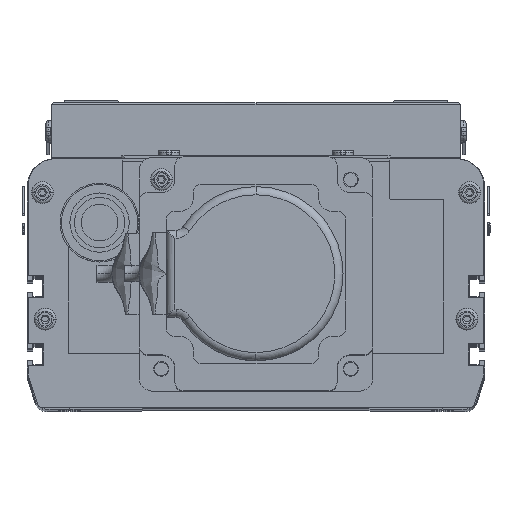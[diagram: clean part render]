
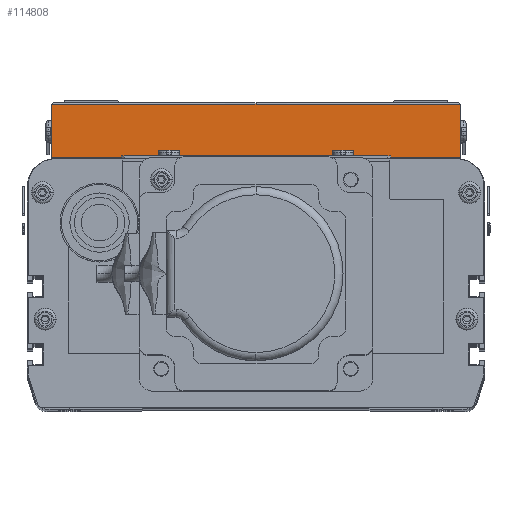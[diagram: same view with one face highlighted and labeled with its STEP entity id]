
A CAD part, top view. The second image highlights one B-rep face of the part: STEP entity #114808.
In plain terms, the highlighted planar face has unit normal (0, 0, 1) as drawn and (1, 0, 0) by its records, which use the part's own axes.
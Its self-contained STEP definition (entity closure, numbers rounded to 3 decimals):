
#38600 = DIRECTION ( 'NONE',  ( 0., -1., 0. ) ) ;
#38601 = VECTOR ( 'NONE', #38600, 1000. ) ;
#38603 = CARTESIAN_POINT ( 'NONE',  ( 220., 20., -150. ) ) ;
#38605 = LINE ( 'NONE', #38603, #38601 ) ;
#38727 = CARTESIAN_POINT ( 'NONE',  ( 220., 0., 0. ) ) ;
#39029 = LINE ( 'NONE', #39134, #39133 ) ;
#39052 = CARTESIAN_POINT ( 'NONE',  ( 220., 0., -150. ) ) ;
#39133 = VECTOR ( 'NONE', #39226, 1000. ) ;
#39134 = CARTESIAN_POINT ( 'NONE',  ( 220., 19.5, 0. ) ) ;
#39157 = CARTESIAN_POINT ( 'NONE',  ( 220., 19.5, -150. ) ) ;
#39226 = DIRECTION ( 'NONE',  ( 0., 0., 1. ) ) ;
#39911 = CARTESIAN_POINT ( 'NONE',  ( 220., 19.5, -75. ) ) ;
#40041 = DIRECTION ( 'NONE',  ( 0., -1., 0. ) ) ;
#40042 = VECTOR ( 'NONE', #40041, 1000. ) ;
#40043 = CARTESIAN_POINT ( 'NONE',  ( 220., 20., 0. ) ) ;
#40044 = LINE ( 'NONE', #40043, #40042 ) ;
#40127 = CARTESIAN_POINT ( 'NONE',  ( 220., 19.5, 0. ) ) ;
#40477 = DIRECTION ( 'NONE',  ( 0., 0., -1. ) ) ;
#40479 = VECTOR ( 'NONE', #40477, 1000. ) ;
#40514 = CARTESIAN_POINT ( 'NONE',  ( 220., 0., 0. ) ) ;
#40516 = LINE ( 'NONE', #40514, #40479 ) ;
#41743 = DIRECTION ( 'NONE',  ( -1., 0., 0. ) ) ;
#41798 = DIRECTION ( 'NONE',  ( 0., 0., 1. ) ) ;
#41800 = VECTOR ( 'NONE', #41798, 1000. ) ;
#41805 = DIRECTION ( 'NONE',  ( 0., 0., 1. ) ) ;
#41809 = LINE ( 'NONE', #42128, #41800 ) ;
#41927 = AXIS2_PLACEMENT_3D ( 'NONE', #42126, #41743, #41805 ) ;
#42126 = CARTESIAN_POINT ( 'NONE',  ( 220., 20., 0. ) ) ;
#42128 = CARTESIAN_POINT ( 'NONE',  ( 220., 19.5, 0. ) ) ;
#42142 = PLANE ( 'NONE',  #41927 ) ;
#42143 = FACE_OUTER_BOUND ( 'NONE', #114365, .T. ) ;
#113935 = EDGE_CURVE ( 'NONE', #114169, #114251, #38605, .T. ) ;
#113958 = VERTEX_POINT ( 'NONE', #38727 ) ;
#114141 = EDGE_CURVE ( 'NONE', #114465, #114471, #39029, .T. ) ;
#114169 = VERTEX_POINT ( 'NONE', #39157 ) ;
#114251 = VERTEX_POINT ( 'NONE', #39052 ) ;
#114365 = EDGE_LOOP ( 'NONE', ( #114817, #114825, #114819, #114474, #114525 ) ) ;
#114465 = VERTEX_POINT ( 'NONE', #39911 ) ;
#114471 = VERTEX_POINT ( 'NONE', #40127 ) ;
#114474 = ORIENTED_EDGE ( 'NONE', *, *, #114485, .T. ) ;
#114485 = EDGE_CURVE ( 'NONE', #114471, #113958, #40044, .T. ) ;
#114525 = ORIENTED_EDGE ( 'NONE', *, *, #114585, .T. ) ;
#114585 = EDGE_CURVE ( 'NONE', #113958, #114251, #40516, .T. ) ;
#114808 = ADVANCED_FACE ( 'NONE', ( #42143 ), #42142, .F. ) ;
#114809 = EDGE_CURVE ( 'NONE', #114169, #114465, #41809, .T. ) ;
#114817 = ORIENTED_EDGE ( 'NONE', *, *, #113935, .F. ) ;
#114819 = ORIENTED_EDGE ( 'NONE', *, *, #114141, .T. ) ;
#114825 = ORIENTED_EDGE ( 'NONE', *, *, #114809, .T. ) ;
